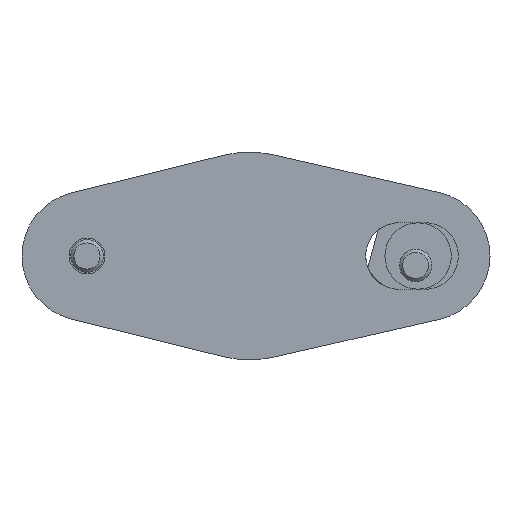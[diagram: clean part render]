
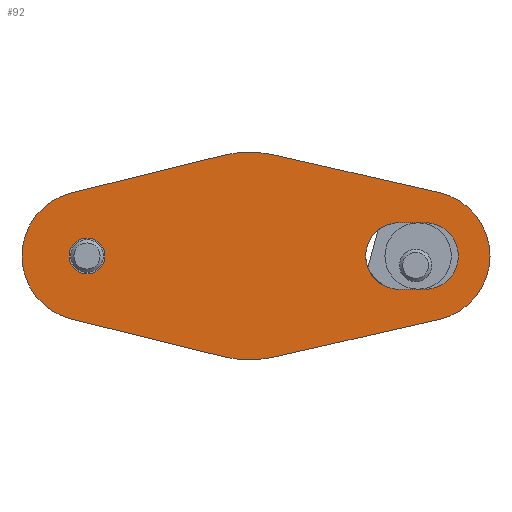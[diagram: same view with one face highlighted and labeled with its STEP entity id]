
A CAD part, front view. The second image highlights one B-rep face of the part: STEP entity #92.
In plain terms, the highlighted planar face has unit normal (0, -1, 0).
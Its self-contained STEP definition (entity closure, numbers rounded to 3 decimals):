
#92 = ADVANCED_FACE( '', ( #176, #177, #178 ), #179, .F. );
#176 = FACE_BOUND( '', #330, .T. );
#177 = FACE_BOUND( '', #331, .T. );
#178 = FACE_OUTER_BOUND( '', #332, .T. );
#179 = PLANE( '', #333 );
#330 = EDGE_LOOP( '', ( #576 ) );
#331 = EDGE_LOOP( '', ( #577, #578, #579, #580 ) );
#332 = EDGE_LOOP( '', ( #581, #582, #583, #584, #585, #586, #587, #588 ) );
#333 = AXIS2_PLACEMENT_3D( '', #589, #590, #591 );
#576 = ORIENTED_EDGE( '', *, *, #969, .T. );
#577 = ORIENTED_EDGE( '', *, *, #967, .T. );
#578 = ORIENTED_EDGE( '', *, *, #958, .T. );
#579 = ORIENTED_EDGE( '', *, *, #963, .T. );
#580 = ORIENTED_EDGE( '', *, *, #965, .T. );
#581 = ORIENTED_EDGE( '', *, *, #934, .F. );
#582 = ORIENTED_EDGE( '', *, *, #956, .F. );
#583 = ORIENTED_EDGE( '', *, *, #953, .F. );
#584 = ORIENTED_EDGE( '', *, *, #950, .F. );
#585 = ORIENTED_EDGE( '', *, *, #947, .F. );
#586 = ORIENTED_EDGE( '', *, *, #944, .F. );
#587 = ORIENTED_EDGE( '', *, *, #941, .F. );
#588 = ORIENTED_EDGE( '', *, *, #938, .F. );
#589 = CARTESIAN_POINT( '', ( -25., 0., 0. ) );
#590 = DIRECTION( '', ( 0., 1., 0. ) );
#591 = DIRECTION( '', ( 0., 0., 1. ) );
#934 = EDGE_CURVE( '', #1088, #1089, #1090, .T. );
#938 = EDGE_CURVE( '', #1089, #1096, #1097, .T. );
#941 = EDGE_CURVE( '', #1096, #1101, #1102, .T. );
#944 = EDGE_CURVE( '', #1101, #1106, #1107, .T. );
#947 = EDGE_CURVE( '', #1106, #1111, #1112, .T. );
#950 = EDGE_CURVE( '', #1111, #1116, #1117, .T. );
#953 = EDGE_CURVE( '', #1116, #1121, #1122, .T. );
#956 = EDGE_CURVE( '', #1121, #1088, #1126, .T. );
#958 = EDGE_CURVE( '', #1128, #1129, #1130, .T. );
#963 = EDGE_CURVE( '', #1129, #1135, #1136, .T. );
#965 = EDGE_CURVE( '', #1135, #1138, #1139, .T. );
#967 = EDGE_CURVE( '', #1138, #1128, #1141, .T. );
#969 = EDGE_CURVE( '', #1144, #1144, #1145, .T. );
#1088 = VERTEX_POINT( '', #1337 );
#1089 = VERTEX_POINT( '', #1338 );
#1090 = LINE( '', #1339, #1340 );
#1096 = VERTEX_POINT( '', #1349 );
#1097 = CIRCLE( '', #1350, 10. );
#1101 = VERTEX_POINT( '', #1355 );
#1102 = LINE( '', #1356, #1357 );
#1106 = VERTEX_POINT( '', #1363 );
#1107 = CIRCLE( '', #1364, 16. );
#1111 = VERTEX_POINT( '', #1369 );
#1112 = LINE( '', #1370, #1371 );
#1116 = VERTEX_POINT( '', #1377 );
#1117 = CIRCLE( '', #1378, 10. );
#1121 = VERTEX_POINT( '', #1383 );
#1122 = LINE( '', #1384, #1385 );
#1126 = CIRCLE( '', #1391, 16. );
#1128 = VERTEX_POINT( '', #1393 );
#1129 = VERTEX_POINT( '', #1394 );
#1130 = CIRCLE( '', #1395, 5.125 );
#1135 = VERTEX_POINT( '', #1402 );
#1136 = LINE( '', #1403, #1404 );
#1138 = VERTEX_POINT( '', #1407 );
#1139 = CIRCLE( '', #1408, 5.125 );
#1141 = LINE( '', #1411, #1412 );
#1144 = VERTEX_POINT( '', #1415 );
#1145 = CIRCLE( '', #1416, 2.75 );
#1337 = CARTESIAN_POINT( '', ( -3.84, 0., -15.532 ) );
#1338 = CARTESIAN_POINT( '', ( -27.4, 0., -9.708 ) );
#1339 = CARTESIAN_POINT( '', ( -3.84, 0., -15.532 ) );
#1340 = VECTOR( '', #1649, 1000. );
#1349 = CARTESIAN_POINT( '', ( -27.4, 0., 9.708 ) );
#1350 = AXIS2_PLACEMENT_3D( '', #1653, #1654, #1655 );
#1355 = CARTESIAN_POINT( '', ( -3.84, 0., 15.532 ) );
#1356 = CARTESIAN_POINT( '', ( -27.4, 0., 9.708 ) );
#1357 = VECTOR( '', #1660, 1000. );
#1363 = CARTESIAN_POINT( '', ( 3.556, 0., 15.6 ) );
#1364 = AXIS2_PLACEMENT_3D( '', #1663, #1664, #1665 );
#1369 = CARTESIAN_POINT( '', ( 29.222, 0., 9.75 ) );
#1370 = CARTESIAN_POINT( '', ( 3.556, 0., 15.6 ) );
#1371 = VECTOR( '', #1670, 1000. );
#1377 = CARTESIAN_POINT( '', ( 29.222, 0., -9.75 ) );
#1378 = AXIS2_PLACEMENT_3D( '', #1673, #1674, #1675 );
#1383 = CARTESIAN_POINT( '', ( 3.556, 0., -15.6 ) );
#1384 = CARTESIAN_POINT( '', ( 29.222, 0., -9.75 ) );
#1385 = VECTOR( '', #1680, 1000. );
#1391 = AXIS2_PLACEMENT_3D( '', #1683, #1684, #1685 );
#1393 = CARTESIAN_POINT( '', ( 23., 0., -5.125 ) );
#1394 = CARTESIAN_POINT( '', ( 23., 0., 5.125 ) );
#1395 = AXIS2_PLACEMENT_3D( '', #1689, #1690, #1691 );
#1402 = CARTESIAN_POINT( '', ( 27., 0., 5.125 ) );
#1403 = CARTESIAN_POINT( '', ( 23., 0., 5.125 ) );
#1404 = VECTOR( '', #1700, 1000. );
#1407 = CARTESIAN_POINT( '', ( 27., 0., -5.125 ) );
#1408 = AXIS2_PLACEMENT_3D( '', #1702, #1703, #1704 );
#1411 = CARTESIAN_POINT( '', ( 27., 0., -5.125 ) );
#1412 = VECTOR( '', #1706, 1000. );
#1415 = CARTESIAN_POINT( '', ( -22.25, 0., 0. ) );
#1416 = AXIS2_PLACEMENT_3D( '', #1710, #1711, #1712 );
#1649 = DIRECTION( '', ( -0.971, 0., 0.24 ) );
#1653 = CARTESIAN_POINT( '', ( -25., 0., 0. ) );
#1654 = DIRECTION( '', ( 0., 1., 0. ) );
#1655 = DIRECTION( '', ( 1., 0., 0. ) );
#1660 = DIRECTION( '', ( 0.971, 0., 0.24 ) );
#1663 = CARTESIAN_POINT( '', ( 0., 0., 0. ) );
#1664 = DIRECTION( '', ( 0., 1., 0. ) );
#1665 = DIRECTION( '', ( 1., 0., 0. ) );
#1670 = DIRECTION( '', ( 0.975, 0., -0.222 ) );
#1673 = CARTESIAN_POINT( '', ( 27., 0., 0. ) );
#1674 = DIRECTION( '', ( 0., 1., 0. ) );
#1675 = DIRECTION( '', ( 1., 0., 0. ) );
#1680 = DIRECTION( '', ( -0.975, 0., -0.222 ) );
#1683 = CARTESIAN_POINT( '', ( 0., 0., 0. ) );
#1684 = DIRECTION( '', ( 0., 1., 0. ) );
#1685 = DIRECTION( '', ( 1., 0., 0. ) );
#1689 = CARTESIAN_POINT( '', ( 23., 0., 0. ) );
#1690 = DIRECTION( '', ( 0., 1., 0. ) );
#1691 = DIRECTION( '', ( 1., 0., 0. ) );
#1700 = DIRECTION( '', ( 1., 0., 0. ) );
#1702 = CARTESIAN_POINT( '', ( 27., 0., 0. ) );
#1703 = DIRECTION( '', ( 0., 1., 0. ) );
#1704 = DIRECTION( '', ( 1., 0., 0. ) );
#1706 = DIRECTION( '', ( -1., 0., 0. ) );
#1710 = CARTESIAN_POINT( '', ( -25., 0., 0. ) );
#1711 = DIRECTION( '', ( 0., 1., 0. ) );
#1712 = DIRECTION( '', ( 1., 0., 0. ) );
